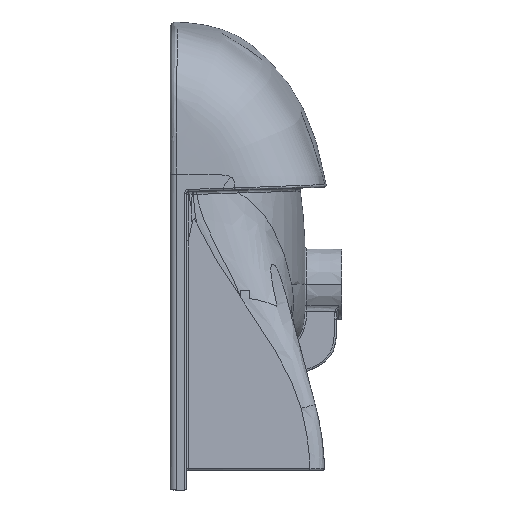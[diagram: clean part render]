
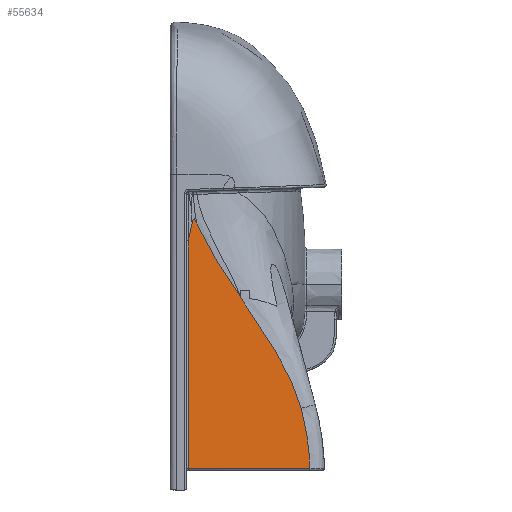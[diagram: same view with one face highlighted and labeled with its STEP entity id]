
A CAD part, left-side view. The second image highlights one B-rep face of the part: STEP entity #55634.
In plain terms, the highlighted planar face has unit normal (-0.998, -0.059, 0).
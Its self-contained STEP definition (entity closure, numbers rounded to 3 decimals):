
#1802 = CARTESIAN_POINT ( 'NONE',  ( -245.157, 852.965, 256.111 ) ) ;
#2035 = CARTESIAN_POINT ( 'NONE',  ( -245.699, 862.118, 242.871 ) ) ;
#2949 = CARTESIAN_POINT ( 'NONE',  ( -245.423, 857.465, 262.928 ) ) ;
#3428 = CARTESIAN_POINT ( 'NONE',  ( -245.273, 854.938, 260.839 ) ) ;
#5292 = CARTESIAN_POINT ( 'NONE',  ( -242.786, 812.967, 189.626 ) ) ;
#5771 = CARTESIAN_POINT ( 'NONE',  ( -242.674, 811.08, 186.642 ) ) ;
#9350 = CARTESIAN_POINT ( 'NONE',  ( -245.445, 857.827, 262.218 ) ) ;
#9837 = CARTESIAN_POINT ( 'NONE',  ( -245.406, 857.18, 263.214 ) ) ;
#12748 = CARTESIAN_POINT ( 'NONE',  ( -239.207, 752.574, 79.346 ) ) ;
#13677 = LINE ( 'NONE', #51533, #86509 ) ;
#17261 = CARTESIAN_POINT ( 'NONE',  ( -245.491, 858.609, 259.129 ) ) ;
#17592 = VERTEX_POINT ( 'NONE', #55306 ) ;
#18654 = CARTESIAN_POINT ( 'NONE',  ( -245.372, 856.6, 263.274 ) ) ;
#20530 = CARTESIAN_POINT ( 'NONE',  ( -243.823, 830.454, 216.159 ) ) ;
#20857 = EDGE_CURVE ( 'NONE', #43515, #55359, #88146, .T. ) ;
#21493 = CARTESIAN_POINT ( 'NONE',  ( -244.886, 848.404, 246.545 ) ) ;
#21513 = VERTEX_POINT ( 'NONE', #64377 ) ;
#21968 = CARTESIAN_POINT ( 'NONE',  ( -242.9, 814.888, 192.589 ) ) ;
#22706 = CARTESIAN_POINT ( 'NONE',  ( -245.699, 862.118, 242.871 ) ) ;
#25031 = ORIENTED_EDGE ( 'NONE', *, *, #20857, .T. ) ;
#27901 = CARTESIAN_POINT ( 'NONE',  ( -243.245, 820.711, 201.437 ) ) ;
#28365 = EDGE_CURVE ( 'NONE', #43272, #28867, #84211, .T. ) ;
#28862 = CARTESIAN_POINT ( 'NONE',  ( -244.789, 846.766, 243.414 ) ) ;
#28867 = VERTEX_POINT ( 'NONE', #44818 ) ;
#28904 = CARTESIAN_POINT ( 'NONE',  ( -239.207, 752.574, 79.346 ) ) ;
#29763 = ORIENTED_EDGE ( 'NONE', *, *, #80238, .F. ) ;
#31506 = CARTESIAN_POINT ( 'NONE',  ( -245.547, 859.551, 253.685 ) ) ;
#31783 = ORIENTED_EDGE ( 'NONE', *, *, #90406, .T. ) ;
#31957 = CARTESIAN_POINT ( 'NONE',  ( -245.411, 857.258, 263.148 ) ) ;
#32442 = CARTESIAN_POINT ( 'NONE',  ( -245.362, 856.425, 263.172 ) ) ;
#32923 = CARTESIAN_POINT ( 'NONE',  ( -245.305, 855.469, 261.909 ) ) ;
#35747 = CARTESIAN_POINT ( 'NONE',  ( -244.27, 838.004, 228.093 ) ) ;
#37078 = DIRECTION ( 'NONE',  ( 0., 0., -1. ) ) ;
#39334 = CARTESIAN_POINT ( 'NONE',  ( -245.44, 857.75, 262.402 ) ) ;
#40307 = CARTESIAN_POINT ( 'NONE',  ( -245.337, 856.003, 262.744 ) ) ;
#40576 = CARTESIAN_POINT ( 'NONE',  ( -239.207, 752.574, 79.346 ) ) ;
#43181 = CARTESIAN_POINT ( 'NONE',  ( -242.674, 811.08, 186.642 ) ) ;
#43227 = CARTESIAN_POINT ( 'NONE',  ( -245.491, 858.609, 259.129 ) ) ;
#43272 = VERTEX_POINT ( 'NONE', #12748 ) ;
#43515 = VERTEX_POINT ( 'NONE', #43227 ) ;
#44818 = CARTESIAN_POINT ( 'NONE',  ( -238.708, 744.144, 21. ) ) ;
#45370 = EDGE_LOOP ( 'NONE', ( #70112, #31783, #45984, #80347, #51020, #29763, #25031 ) ) ;
#45984 = ORIENTED_EDGE ( 'NONE', *, *, #28365, .F. ) ;
#46041 = VECTOR ( 'NONE', #37078, 1000. ) ;
#46720 = CARTESIAN_POINT ( 'NONE',  ( -245.491, 858.609, 259.129 ) ) ;
#46762 = CARTESIAN_POINT ( 'NONE',  ( -245.616, 860.716, 248.265 ) ) ;
#47684 = CARTESIAN_POINT ( 'NONE',  ( -245.357, 856.347, 263.109 ) ) ;
#47756 = FACE_OUTER_BOUND ( 'NONE', #45370, .T. ) ;
#48891 = VERTEX_POINT ( 'NONE', #49528 ) ;
#49528 = CARTESIAN_POINT ( 'NONE',  ( -245.699, 862.118, 21. ) ) ;
#49583 = CARTESIAN_POINT ( 'NONE',  ( -239.809, 762.724, 117.602 ) ) ;
#50521 = CARTESIAN_POINT ( 'NONE',  ( -244.487, 841.663, 234.137 ) ) ;
#51020 = ORIENTED_EDGE ( 'NONE', *, *, #71255, .T. ) ;
#51533 = CARTESIAN_POINT ( 'NONE',  ( -237.898, 730.479, 21. ) ) ;
#53908 = CARTESIAN_POINT ( 'NONE',  ( -245.236, 854.309, 259.377 ) ) ;
#54591 = CARTESIAN_POINT ( 'NONE',  ( -245.467, 858.2, 261.082 ) ) ;
#55139 = DIRECTION ( 'NONE',  ( -0.998, -0.059, 0. ) ) ;
#55306 = CARTESIAN_POINT ( 'NONE',  ( -242.674, 811.08, 186.642 ) ) ;
#55359 = VERTEX_POINT ( 'NONE', #22706 ) ;
#55538 = CARTESIAN_POINT ( 'NONE',  ( -245.245, 854.46, 259.745 ) ) ;
#55612 = PLANE ( 'NONE',  #82128 ) ;
#55634 = ADVANCED_FACE ( 'NONE', ( #47756 ), #55612, .T. ) ;
#57266 = CARTESIAN_POINT ( 'NONE',  ( -238.74, 744.689, 40.731 ) ) ;
#61149 = CARTESIAN_POINT ( 'NONE',  ( -245.699, 862.118, 19. ) ) ;
#61945 = CARTESIAN_POINT ( 'NONE',  ( -245.396, 856.999, 263.306 ) ) ;
#62905 = CARTESIAN_POINT ( 'NONE',  ( -245.283, 855.106, 261.201 ) ) ;
#64377 = CARTESIAN_POINT ( 'NONE',  ( -245.236, 854.309, 259.377 ) ) ;
#64623 = EDGE_CURVE ( 'NONE', #55359, #48891, #82324, .T. ) ;
#64634 = CARTESIAN_POINT ( 'NONE',  ( -238.907, 747.512, 60.267 ) ) ;
#67769 = EDGE_CURVE ( 'NONE', #17592, #43272, #91573, .T. ) ;
#68836 = CARTESIAN_POINT ( 'NONE',  ( -245.472, 858.296, 260.693 ) ) ;
#69332 = CARTESIAN_POINT ( 'NONE',  ( -245.429, 857.567, 262.758 ) ) ;
#70112 = ORIENTED_EDGE ( 'NONE', *, *, #64623, .T. ) ;
#70296 = CARTESIAN_POINT ( 'NONE',  ( -245.316, 855.66, 262.257 ) ) ;
#70779 = CARTESIAN_POINT ( 'NONE',  ( -245.457, 858.029, 261.655 ) ) ;
#71255 = EDGE_CURVE ( 'NONE', #17592, #21513, #72777, .T. ) ;
#72777 = B_SPLINE_CURVE_WITH_KNOTS ( 'NONE', 3,
 ( #5771, #5292, #21968, #88369, #27901, #87883, #20530, #35747, #50521, #28862, #21493, #91267, #1802, #53908 ),
 .UNSPECIFIED., .F., .F.,
 ( 4, 2, 2, 2, 2, 2, 4 ),
 ( 0., 0.011, 0.021, 0.042, 0.064, 0.074, 0.085 ),
 .UNSPECIFIED. ) ;
#76719 = CARTESIAN_POINT ( 'NONE',  ( -245.453, 857.967, 261.844 ) ) ;
#77207 = CARTESIAN_POINT ( 'NONE',  ( -245.487, 858.541, 259.522 ) ) ;
#77476 = CARTESIAN_POINT ( 'NONE',  ( -238.708, 744.144, 21. ) ) ;
#77682 = CARTESIAN_POINT ( 'NONE',  ( -245.344, 856.127, 262.902 ) ) ;
#80238 = EDGE_CURVE ( 'NONE', #43515, #21513, #93644, .T. ) ;
#80347 = ORIENTED_EDGE ( 'NONE', *, *, #67769, .F. ) ;
#82128 = AXIS2_PLACEMENT_3D ( 'NONE', #92978, #55139, #85138 ) ;
#82324 = LINE ( 'NONE', #61149, #46041 ) ;
#84211 =( BOUNDED_CURVE ( )  B_SPLINE_CURVE ( 3, ( #40576, #64634, #57266, #77476 ),
 .UNSPECIFIED., .F., .T. ) 
 B_SPLINE_CURVE_WITH_KNOTS ( ( 4, 4 ),
 ( 6.024, 6.256 ),
 .UNSPECIFIED. ) 
 CURVE ( )  GEOMETRIC_REPRESENTATION_ITEM ( )  RATIONAL_B_SPLINE_CURVE ( ( 1., 0.996, 0.996, 1. ) ) 
 REPRESENTATION_ITEM ( '' )  );
#84587 = CARTESIAN_POINT ( 'NONE',  ( -245.378, 856.696, 263.311 ) ) ;
#85138 = DIRECTION ( 'NONE',  ( 0., 0., -1. ) ) ;
#85538 = CARTESIAN_POINT ( 'NONE',  ( -245.236, 854.309, 259.377 ) ) ;
#86014 = CARTESIAN_POINT ( 'NONE',  ( -245.483, 858.466, 259.914 ) ) ;
#86509 = VECTOR ( 'NONE', #88898, 1000. ) ;
#87883 = CARTESIAN_POINT ( 'NONE',  ( -243.592, 826.559, 210.268 ) ) ;
#88146 = B_SPLINE_CURVE_WITH_KNOTS ( 'NONE', 3,
 ( #17261, #31506, #46762, #2035 ),
 .UNSPECIFIED., .F., .F.,
 ( 4, 4 ),
 ( 0.747, 0.764 ),
 .UNSPECIFIED. ) ;
#88369 = CARTESIAN_POINT ( 'NONE',  ( -243.13, 818.76, 198.494 ) ) ;
#88888 = CARTESIAN_POINT ( 'NONE',  ( -241.361, 788.916, 151.586 ) ) ;
#88898 = DIRECTION ( 'NONE',  ( 0.059, -0.998, 0. ) ) ;
#90406 = EDGE_CURVE ( 'NONE', #48891, #28867, #13677, .T. ) ;
#91267 = CARTESIAN_POINT ( 'NONE',  ( -245.07, 851.503, 252.892 ) ) ;
#91573 = B_SPLINE_CURVE_WITH_KNOTS ( 'NONE', 3,
 ( #43181, #88888, #49583, #28904 ),
 .UNSPECIFIED., .F., .F.,
 ( 4, 4 ),
 ( 1.235, 1.354 ),
 .UNSPECIFIED. ) ;
#92904 = CARTESIAN_POINT ( 'NONE',  ( -245.254, 854.615, 260.112 ) ) ;
#92978 = CARTESIAN_POINT ( 'NONE',  ( -237.898, 730.479, 1486.245 ) ) ;
#93379 = CARTESIAN_POINT ( 'NONE',  ( -245.39, 856.897, 263.329 ) ) ;
#93644 = B_SPLINE_CURVE_WITH_KNOTS ( 'NONE', 3,
 ( #46720, #77207, #86014, #68836, #54591, #70779, #76719, #9350, #39334, #69332, #2949, #31957, #9837, #61945, #93379, #84587, #18654, #32442, #47684, #77682, #40307, #70296, #32923, #62905, #3428, #92904, #55538, #85538 ),
 .UNSPECIFIED., .F., .F.,
 ( 4, 2, 2, 2, 2, 2, 2, 2, 2, 2, 2, 2, 2, 4 ),
 ( 0., 0.001, 0.002, 0.003, 0.004, 0.004, 0.004, 0.005, 0.005, 0.005, 0.006, 0.007, 0.008, 0.01 ),
 .UNSPECIFIED. ) ;
